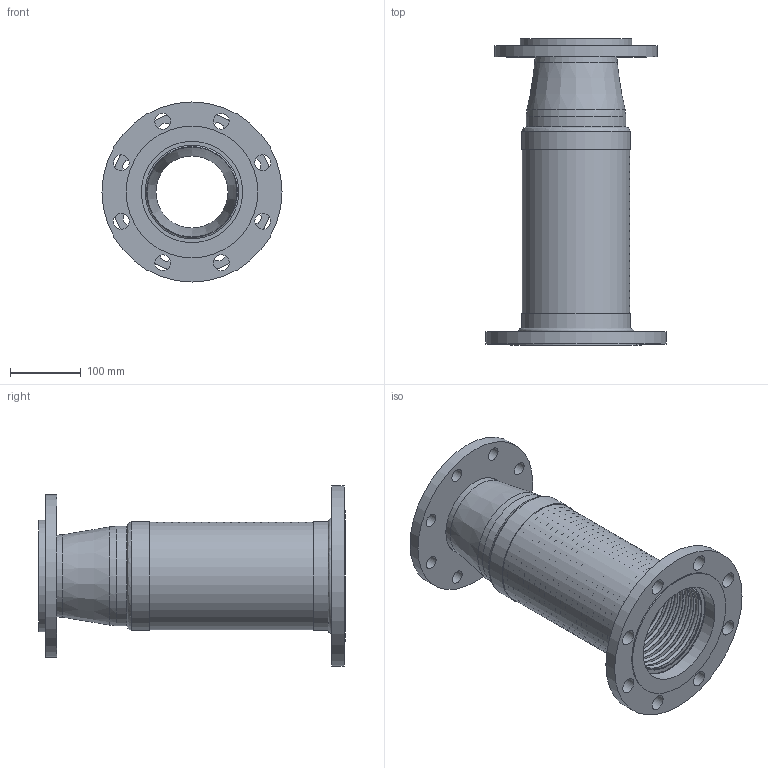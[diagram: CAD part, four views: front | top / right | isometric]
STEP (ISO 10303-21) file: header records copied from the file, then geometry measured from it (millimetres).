
FILE_DESCRIPTION((''),'2;1');
FILE_NAME('C:\2012_Work\Designs\RFFL\RFFL-5x4in.stp','2013-08-19T15:52:47',('KShiels'),(''),'Autodesk Inventor 2012','Autodesk Inventor 2012','');
FILE_SCHEMA(('AUTOMOTIVE_DESIGN { 1 0 10303 214 1 1 1 1 }'));
Length unit declared in the file: inch
Products named in the file (9): RFFL-5x4in; RFFL-5x4in_Welds; A-30998_5in_RFFL-BRAID; A-30998_5in_RFFL-BELLOWS; A-30998_5in_RFFL-BRAID-COLLAR; A-30988_5in-FIXED-FLANGE; A-30989_4in-FLOATING-FLANGE; A-30991_5x4in-REDUCER; A-30990_4in-WASHER
Assembly tree (9 placements, depth 2):
  RFFL-5x4in
    RFFL-5x4in_Welds
    A-30998_5in_RFFL-BRAID
    A-30998_5in_RFFL-BELLOWS
    A-30998_5in_RFFL-BRAID-COLLAR  x2
    A-30988_5in-FIXED-FLANGE
    A-30989_4in-FLOATING-FLANGE
    A-30991_5x4in-REDUCER
    A-30990_4in-WASHER
Bounding box: 254 x 431.99 x 254 mm (x, y, z)
Volume: 1654416 mm3; surface area: 1310016.5 mm2
Topology: 11 solids, 11 shells, 284 faces, 485 edges, 329 vertices
Faces by surface type: plane 128, torus 111, cylinder 36, cone 5, bspline 4
Full cylindrical faces by diameter (mm): 19.05 x8, 22.225 x8, 101.6 x1, 114.706 x1, 117.475 x3, 127 x1, 140.106 x2, 142.875 x1, 150.114 x1, 151.13 x3, 153.511 x3, 157.163 x1, 185.738 x1, 228.6 x1, 254 x1
Entity records: 7108 total; most frequent: CARTESIAN_POINT 1829, DIRECTION 1168, ORIENTED_EDGE 610, EDGE_LOOP 589, AXIS2_PLACEMENT_3D 584, FACE_BOUND 309, EDGE_CURVE 305, VERTEX_POINT 302
